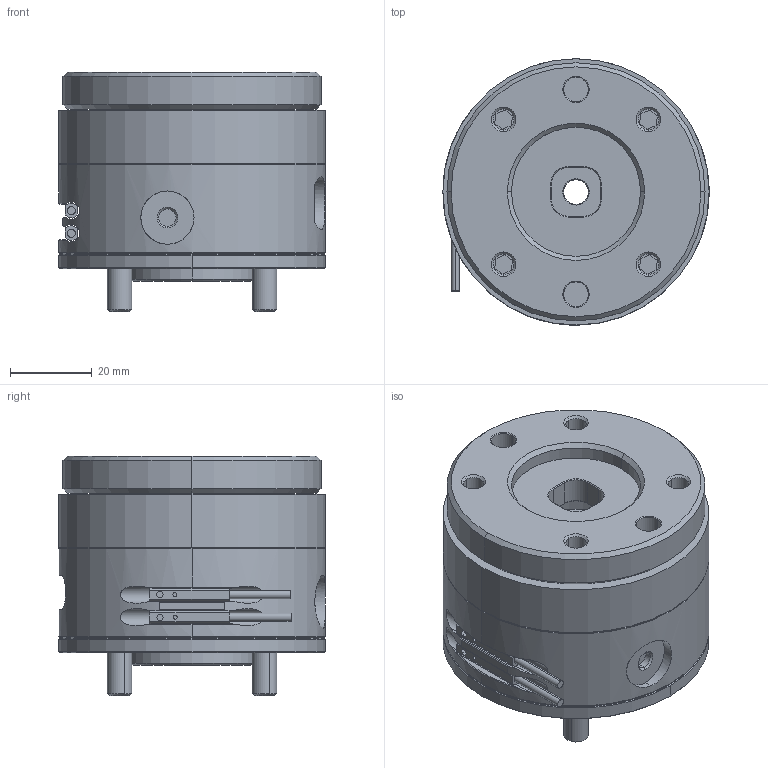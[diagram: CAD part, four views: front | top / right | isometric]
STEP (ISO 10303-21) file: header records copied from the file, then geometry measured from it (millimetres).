
FILE_DESCRIPTION (( 'STEP AP203' ), '1' );
FILE_NAME ('FD-XY-050.STEP', '2026-03-10T08:08:36', ( 'USER-' ), ( 'Microsoft' ), 'SwSTEP 2.0', 'SolidWorks 2018', '' );
FILE_SCHEMA (( 'CONFIG_CONTROL_DESIGN' ));
Length unit declared in the file: millimetre
Products named in the file (8): 20x8-R4; FD-XY-050-01 俋褲; FD-XY-050-02 菁裔; 棠羲換覜ん; 内六角圆柱头螺钉[GBT70_1-2008][M6×20]; FD-XY-050-03 階裔; FD-XY-050; FD-XY-050-04 硃野极薊輸
Assembly tree (11 placements, depth 2):
  FD-XY-050
    FD-XY-050-01 俋褲
    FD-XY-050-02 菁裔
    FD-XY-050-03 階裔
    内六角圆柱头螺钉[GBT70_1-2008][M6×20]  x4
    FD-XY-050-04 硃野极薊輸
    20x8-R4
    棠羲換覜ん  x2
Bounding box: 65 x 65 x 58.5 mm (x, y, z)
Volume: 130205.8 mm3; surface area: 43215.7 mm2
Topology: 11 solids, 11 shells, 782 faces, 2007 edges, 1302 vertices
Faces by surface type: plane 345, cylinder 179, bspline 157, cone 83, torus 18
Entity records: 29107 total; most frequent: CARTESIAN_POINT 11571, ORIENTED_EDGE 3672, DIRECTION 3007, EDGE_CURVE 1836, VERTEX_POINT 1194, VECTOR 1087, LINE 1087, AXIS2_PLACEMENT_3D 960
